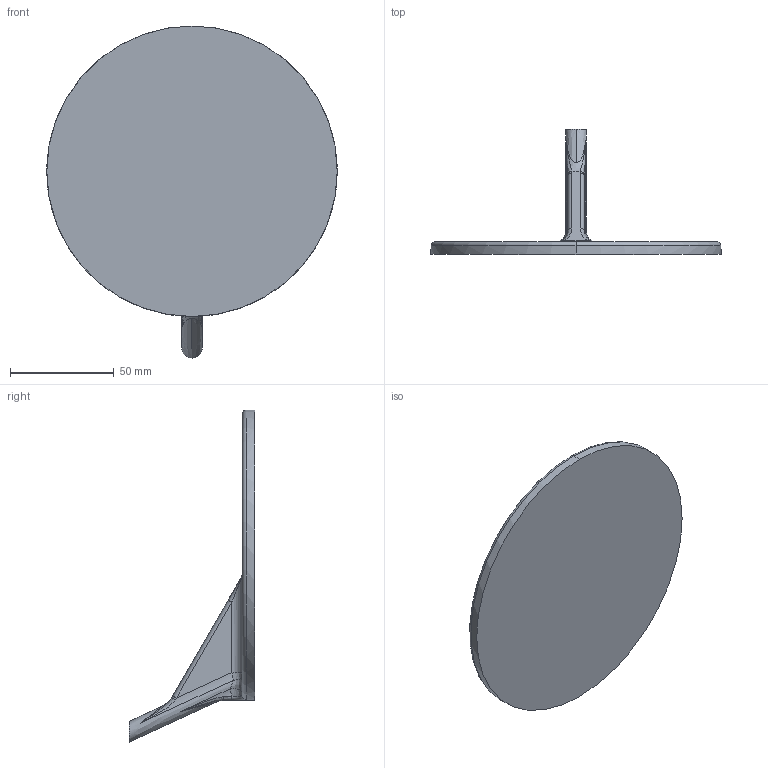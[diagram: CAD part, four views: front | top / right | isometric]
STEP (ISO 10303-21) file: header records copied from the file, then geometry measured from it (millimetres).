
FILE_DESCRIPTION (( 'STEP AP214' ), '1' );
FILE_NAME ('OnePlus_One_Swing_Stand_Base_P-Bottom.STEP', '2015-03-19T12:15:14', ( '' ), ( '' ), 'SwSTEP 2.0', 'SolidWorks 2014', '' );
FILE_SCHEMA (( 'AUTOMOTIVE_DESIGN' ));
Length unit declared in the file: millimetre
Products named in the file (1): OnePlus_One_Swing_Stand_Base_P-Bottom
Bounding box: 140 x 60.3 x 160.01 mm (x, y, z)
Volume: 102111.4 mm3; surface area: 37176.6 mm2
Topology: 1 solids, 1 shells, 46 faces, 108 edges, 59 vertices
Faces by surface type: bspline 26, cylinder 11, plane 7, torus 2
Entity records: 2335 total; most frequent: CARTESIAN_POINT 1484, ORIENTED_EDGE 204, DIRECTION 130, EDGE_CURVE 102, VERTEX_POINT 59, AXIS2_PLACEMENT_3D 54, EDGE_LOOP 47, FACE_OUTER_BOUND 46
